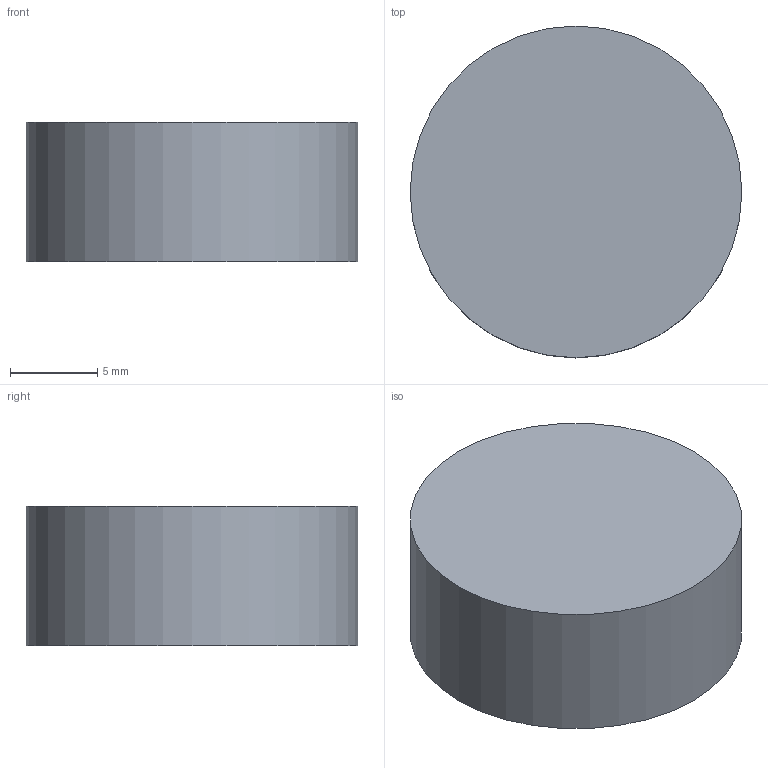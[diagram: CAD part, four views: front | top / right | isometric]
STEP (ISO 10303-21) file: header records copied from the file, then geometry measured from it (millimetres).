
FILE_DESCRIPTION(('Open CASCADE Model'),'2;1');
FILE_NAME('Open CASCADE Shape Model','2026-10-17T21:05:52',('Author'),( 'Open CASCADE'),'Open CASCADE STEP processor 7.9','Open CASCADE 7.9' ,'Unknown');
FILE_SCHEMA(('AUTOMOTIVE_DESIGN { 1 0 10303 214 1 1 1 1 }'));
Length unit declared in the file: millimetre
Products named in the file (1): Open CASCADE STEP translator 7.9 27
Bounding box: 19 x 19 x 8 mm (x, y, z)
Volume: 2268.2 mm3; surface area: 1044.6 mm2
Topology: 1 solids, 1 shells, 3 faces, 3 edges, 2 vertices
Faces by surface type: plane 2, cylinder 1
Full cylindrical faces by diameter (mm): 19 x1
Entity records: 108 total; most frequent: DIRECTION 19, CARTESIAN_POINT 15, AXIS2_PLACEMENT_3D 6, ORIENTED_EDGE 6, PCURVE 6, DEFINITIONAL_REPRESENTATION 6, LINE 5, VECTOR 5
